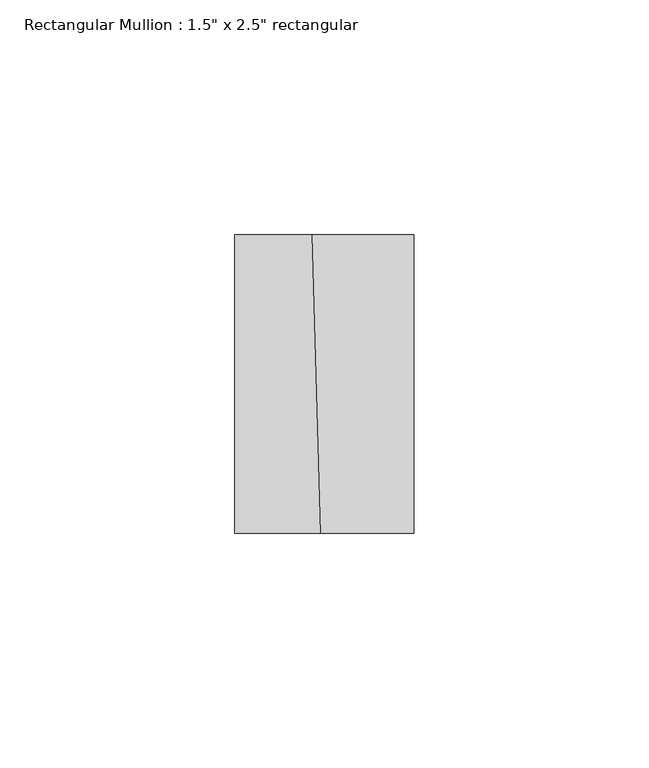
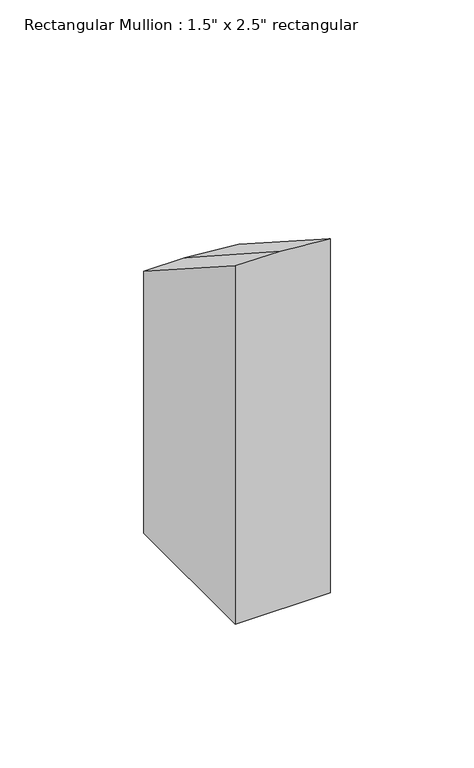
"""IFC4 building model written with IfcOpenShell, lengths in millimetres: member geometry."""

import ifcopenshell
import ifcopenshell.guid

model = None  # the IFC model being written
_history = None  # IfcOwnerHistory: only IFC2X3 demands one
_inside = {}  # id of a spatial element -> (the spatial element, [elements in it])
_under = {}  # id of a project, library or spatial element -> (it, [spatial elements below it])
_declared = {}  # id of a project -> (the project, [libraries it declares])
_typed = {}  # id of a type object -> (the type object, [elements of that type])
_made_of = {}  # id of a material, layer set ... -> (it, [elements and type objects made of it])


def new_model(schema):
    """Start an empty IFC model of exactly this schema.

    Asked for "IFC4X3", IfcOpenShell would pick the latest addendum, in which some entities
    have other attributes; the version numbers below select the first issue.
    IFC2X3 requires an IfcOwnerHistory on every rooted entity: one is made here for all.
    """
    global model, _history
    if schema == "IFC4X3":
        model = ifcopenshell.file(schema_version=(4, 3, 0, 0))
    else:
        model = ifcopenshell.file(schema=schema)
    _inside.clear()
    _under.clear()
    _declared.clear()
    _typed.clear()
    _made_of.clear()
    _history = None
    if model.schema == "IFC2X3":
        org = make("IfcOrganization", Name="unknown")
        user = make(
            "IfcPersonAndOrganization",
            ThePerson=make("IfcPerson", FamilyName="unknown"),
            TheOrganization=org,
        )
        app = make(
            "IfcApplication",
            ApplicationDeveloper=org,
            Version="unknown",
            ApplicationFullName="unknown",
            ApplicationIdentifier="unknown",
        )
        _history = make(
            "IfcOwnerHistory",
            OwningUser=user,
            OwningApplication=app,
            ChangeAction="ADDED",
            CreationDate=0,
        )
    return model


def make(cls, **values):
    """One entity of the class cls with the attributes given. An attribute that is None is left unset."""
    return model.create_entity(
        cls, **{name: value for name, value in values.items() if value is not None}
    )


def rooted(cls, **values):
    """An entity with a GlobalId (a new one), such as an element, a storey or a relation."""
    return make(cls, GlobalId=ifcopenshell.guid.new(), OwnerHistory=_history, **values)


def si_unit(unit_type, name, prefix=None):
    """IfcSIUnit, for example si_unit("LENGTHUNIT", "METRE", prefix="MILLI")."""
    return make("IfcSIUnit", UnitType=unit_type, Prefix=prefix, Name=name)


def assignment(units):
    """IfcUnitAssignment: the units of a project."""
    return None if units is None else make("IfcUnitAssignment", Units=units)


def point(xyz):
    """IfcCartesianPoint."""
    return None if xyz is None else make("IfcCartesianPoint", Coordinates=xyz)


def direction(xyz):
    """IfcDirection."""
    return None if xyz is None else make("IfcDirection", DirectionRatios=xyz)


def frame(location, z_axis=None, x_axis=None):
    """IfcAxis2Placement3D, a coordinate frame: its origin and axes. An axis left out is left unset."""
    return make(
        "IfcAxis2Placement3D",
        Location=point(location),
        Axis=direction(z_axis),
        RefDirection=direction(x_axis),
    )


def origin():
    """The frame at (0, 0, 0) with its axes left unset."""
    return frame((0.0, 0.0, 0.0))


def place(relative_to, where):
    """IfcLocalPlacement: puts the frame where relative to a parent placement (None: the world)."""
    return make(
        "IfcLocalPlacement", PlacementRelTo=relative_to, RelativePlacement=where
    )


def context(
    kind, dimensions, precision=None, world=None, true_north=None, identifier=None
):
    """IfcGeometricRepresentationContext, for example the 3D "Model" context."""
    return make(
        "IfcGeometricRepresentationContext",
        ContextIdentifier=identifier,
        ContextType=kind,
        CoordinateSpaceDimension=dimensions,
        Precision=precision,
        WorldCoordinateSystem=world,
        TrueNorth=true_north,
    )


def project(units=None, contexts=None):
    """IfcProject with its units and contexts."""
    return rooted(
        "IfcProject",
        Name="project",
        RepresentationContexts=contexts,
        UnitsInContext=assignment(units),
    )


def spatial(cls, under=None, at=None, **own):
    """A site, building, storey or space (cls), placed at a placement, below another one or the project."""
    s = rooted(cls, ObjectPlacement=at, **own)
    if under is not None:
        _under.setdefault(under.id(), (under, []))[1].append(s)
    return s


def faces_of(points, faces, orient=None, outer=None):
    """IfcFace entities. A face is a list of loops; a loop is a list of indices into points, from 0.

    orient and outer hold one flag for each loop. By default every Orientation is true, the
    first loop of a face is its IfcFaceOuterBound and the others are IfcFaceBound.
    """
    made = []
    for i, loops in enumerate(faces):
        bounds = []
        for j, loop in enumerate(loops):
            is_outer = j == 0 if outer is None else outer[i][j]
            bounds.append(
                make(
                    "IfcFaceOuterBound" if is_outer else "IfcFaceBound",
                    Bound=make("IfcPolyLoop", Polygon=[points[k] for k in loop]),
                    Orientation=True if orient is None else orient[i][j],
                )
            )
        made.append(make("IfcFace", Bounds=bounds))
    return made


def faceted_brep(points, faces, orient=None, outer=None, voids=None):
    """IfcFacetedBrep: a solid bounded by flat faces; with voids (closed shells), ...WithVoids."""
    shared = [point(p) for p in points]
    hull = make("IfcClosedShell", CfsFaces=faces_of(shared, faces, orient, outer))
    if voids is None:
        return make("IfcFacetedBrep", Outer=hull)
    return make(
        "IfcFacetedBrepWithVoids",
        Outer=hull,
        Voids=[
            make(cls, CfsFaces=faces_of(shared, fs, o, b)) for cls, fs, o, b in voids
        ],
    )


def shape(context_of_items, identifier, shape_type, items):
    """IfcShapeRepresentation: the items that make up one representation, for example the "Body"."""
    return make(
        "IfcShapeRepresentation",
        ContextOfItems=context_of_items,
        RepresentationIdentifier=identifier,
        RepresentationType=shape_type,
        Items=items,
    )


def source(mapping_origin, context_of_items, identifier, shape_type, items):
    """IfcRepresentationMap: a shape defined once, which mapped items show again and again."""
    return make(
        "IfcRepresentationMap",
        MappingOrigin=mapping_origin,
        MappedRepresentation=shape(context_of_items, identifier, shape_type, items),
    )


def transform(
    local_origin,
    x_axis=None,
    y_axis=None,
    z_axis=None,
    scale=None,
    scale2=None,
    scale3=None,
    uniform=True,
):
    """IfcCartesianTransformationOperator3D, or its non-uniform kind. x_axis, y_axis, z_axis: its Axis1, 2, 3."""
    if uniform:
        return make(
            "IfcCartesianTransformationOperator3D",
            Axis1=direction(x_axis),
            Axis2=direction(y_axis),
            LocalOrigin=point(local_origin),
            Scale=scale,
            Axis3=direction(z_axis),
        )
    return make(
        "IfcCartesianTransformationOperator3DnonUniform",
        Axis1=direction(x_axis),
        Axis2=direction(y_axis),
        LocalOrigin=point(local_origin),
        Scale=scale,
        Axis3=direction(z_axis),
        Scale2=scale2,
        Scale3=scale3,
    )


def mapped(mapping_source, mapping_target):
    """IfcMappedItem: shows the shape of a source again, moved by a transform."""
    return make(
        "IfcMappedItem", MappingSource=mapping_source, MappingTarget=mapping_target
    )


def made_of(thing, what):
    """Note that an element or type object is made of a material, layer set ...; save() writes the relation."""
    if what is not None:
        _made_of.setdefault(what.id(), (what, []))[1].append(thing)
    return thing


def element(
    cls,
    number,
    at=None,
    inside=None,
    cuts=None,
    type_object=None,
    material=None,
    context=None,
    identifier="Body",
    shape_type=None,
    held_by="IfcProductDefinitionShape",
    body=None,
    shapes=None,
    **own,
):
    """One element of the class cls, such as IfcWall. Its Tag is "e" and its number.

    at: its placement. inside: the storey or other place that contains it. cuts: it is an
    opening in that element (IfcRelVoidsElement). A single representation is given by context,
    identifier, shape_type and body (its items); several are given by shapes. held_by: the class
    of the entity that holds the representations. save() writes the other relations.
    """
    e = rooted(cls, Tag="e%d" % number, ObjectPlacement=at, **own)
    if body is not None:
        shapes = [shape(context, identifier, shape_type, body)]
    if shapes is not None:
        e.Representation = make(held_by, Representations=shapes)
    if inside is not None:
        _inside.setdefault(inside.id(), (inside, []))[1].append(e)
    if cuts is not None:
        rooted(
            "IfcRelVoidsElement", RelatingBuildingElement=cuts, RelatedOpeningElement=e
        )
    if type_object is not None:
        _typed.setdefault(type_object.id(), (type_object, []))[1].append(e)
    return made_of(e, material)


def aggregate(whole, parts):
    """IfcRelAggregates: a whole, such as a stair, and the parts it consists of."""
    return rooted("IfcRelAggregates", RelatingObject=whole, RelatedObjects=parts)


def save(model, path):
    """Write the relations noted so far, then the file.

    IfcRelAggregates (storeys below a building ...), IfcRelContainedInSpatialStructure (elements
    in a storey), IfcRelDefinesByType, IfcRelAssociatesMaterial and IfcRelDeclares: one each for
    every whole, place, type object, material and project.
    """
    for whole, parts in _under.values():
        aggregate(whole, parts)
    for where, things in _inside.values():
        rooted(
            "IfcRelContainedInSpatialStructure",
            RelatedElements=things,
            RelatingStructure=where,
        )
    for kind, things in _typed.values():
        rooted("IfcRelDefinesByType", RelatedObjects=things, RelatingType=kind)
    for what, things in _made_of.values():
        rooted("IfcRelAssociatesMaterial", RelatedObjects=things, RelatingMaterial=what)
    for by, libraries in _declared.values():
        rooted("IfcRelDeclares", RelatingContext=by, RelatedDefinitions=libraries)
    model.write(path)


def member_852e76ec(model_context):
    return source(origin(), model_context, "Body", "Brep", [
        faceted_brep([(19.05, 31.75, -169.2140751), (19.05, -31.75, -169.2140751), (-19.05, -31.75, -169.2140751), (-19.05, 31.75, -169.2140751), (-19.05, 31.75, -57.9818796), (-2.5343547, 31.75, -58.1011929), (19.05, 31.75, -59.8307641), (-19.05, -31.75, -17.2079345), (19.05, -31.75, -18.9271923), (-0.7563691, -31.75, -17.3400925)], [[[0, 1, 2, 3]], [[4, 5, 6, 0, 3]], [[7, 4, 3, 2]], [[8, 9, 7, 2, 1]], [[6, 8, 1, 0]], [[6, 5, 9, 8]], [[5, 4, 7, 9]]]),
    ])


if __name__ == "__main__":
    model = new_model("IFC4")
    model_context = context("Model", 3, world=origin())
    ifc_project = project(units=[si_unit("LENGTHUNIT", "METRE", prefix="MILLI")], contexts=[model_context])
    site = spatial("IfcSite", under=ifc_project)
    building = spatial("IfcBuilding", under=site)
    placement = place(None, origin())
    member_shape = member_852e76ec(model_context)
    element("IfcMember", 1, ObjectType="Rectangular Mullion : 1.5\" x 2.5\" rectangular", at=placement, inside=building, context=model_context, shape_type="MappedRepresentation", body=[
        mapped(member_shape, transform((0.0, 0.0, 0.0), x_axis=(1.0, 0.0, 0.0), y_axis=(0.0, 1.0, 0.0), z_axis=(0.0, 0.0, 1.0))),
    ])
    save(model, "model.ifc")
